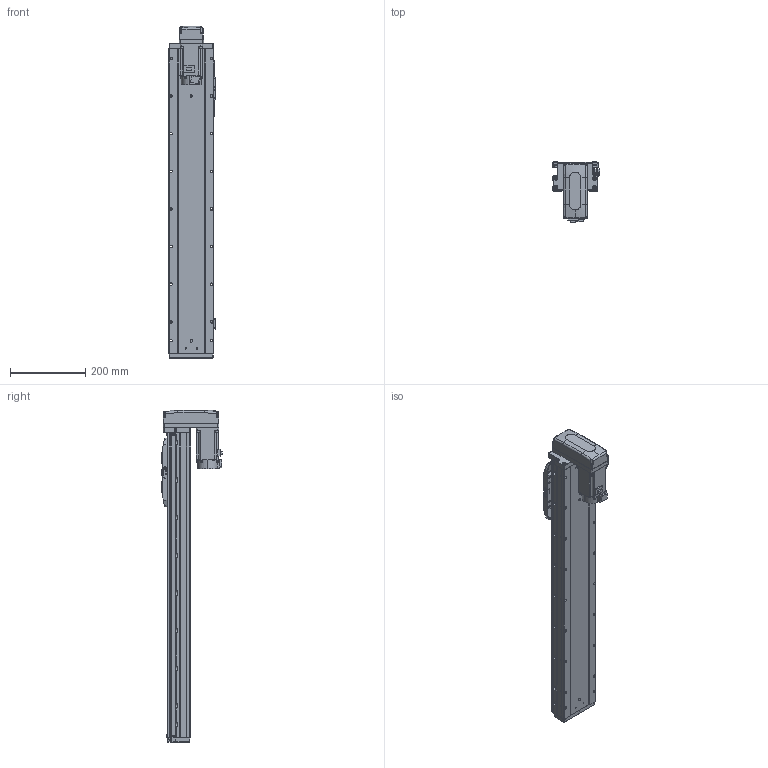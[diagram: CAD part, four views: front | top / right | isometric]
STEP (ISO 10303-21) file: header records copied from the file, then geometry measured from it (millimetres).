
FILE_DESCRIPTION (( 'STEP AP203' ), '1' );
FILE_NAME ('GTH12-600-BM-M40-C4.step', '2022-09-29T02:02:01', ( '微软用户' ), ( '微软中国' ), 'SwSTEP 2.0', 'SolidWorks 2020', '' );
FILE_SCHEMA (( 'CONFIG_CONTROL_DESIGN' ));
Length unit declared in the file: millimetre
Products named in the file (18): CTHA86-033_M40B; GTH120-006; GTH80-028; GTH120-027-1_GTH120-027-2; GTH120-004; GTH50-023; GTH12-600-BM-M40-C4; GTH120-013; GTH50-024; GBT 70.1-M3℅6; GBT96.1-2002 3×0.8; GBT 70.1-M5×16; BTH-M3X5X6; GTH120-001_600; GBT 70.3-M3℅8; hg-kn43j_-s100_; GTH120-003; GTH80-022
Assembly tree (59 placements, depth 2):
  GTH12-600-BM-M40-C4
    GTH120-001_600
    GTH120-003
    GTH120-006
    GTH120-004
    GTH120-013
    GBT 70.1-M3℅6  x14
    GBT 70.1-M5×16  x10
    GBT 70.3-M3℅8  x4
    GTH80-022
    GTH80-028  x2
    GTH50-023  x3
    GTH50-024  x3
    GBT96.1-2002 3×0.8  x6
    BTH-M3X5X6  x8
    hg-kn43j_-s100_
    CTHA86-033_M40B
    GTH120-027-1_GTH120-027-2
Bounding box: 125.7 x 159.8 x 882 mm (x, y, z)
Volume: 6535117.3 mm3; surface area: 608924.2 mm2
Topology: 61 solids, 61 shells, 2451 faces, 5716 edges, 3507 vertices
Faces by surface type: plane 1262, cylinder 709, cone 292, torus 174, sphere 8, bspline 6
Entity records: 45858 total; most frequent: CARTESIAN_POINT 7804, DIRECTION 7584, ORIENTED_EDGE 7042, EDGE_CURVE 3521, AXIS2_PLACEMENT_3D 2652, LINE 2280, VECTOR 2280, VERTEX_POINT 2228
